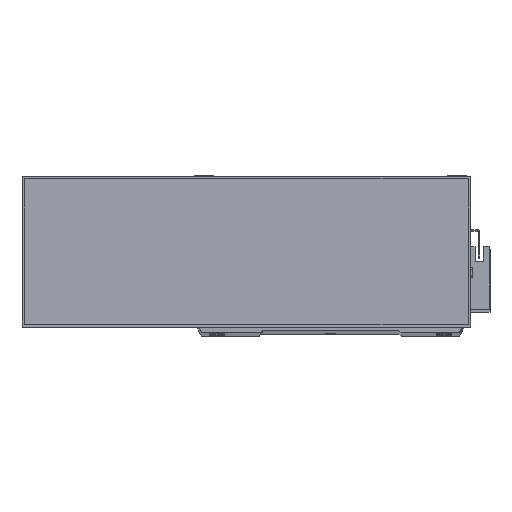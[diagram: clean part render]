
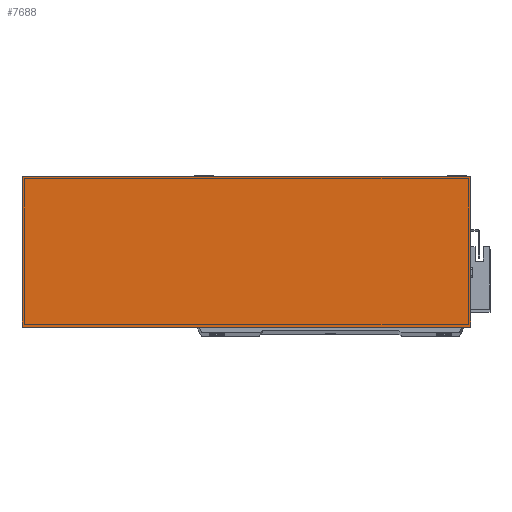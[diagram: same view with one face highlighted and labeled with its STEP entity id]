
A CAD part, top view. The second image highlights one B-rep face of the part: STEP entity #7688.
In plain terms, the highlighted planar face has unit normal (0, 0, 1).
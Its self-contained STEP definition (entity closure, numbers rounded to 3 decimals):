
#278 = CARTESIAN_POINT ( 'NONE',  ( 0., 0., 50. ) ) ;
#381 = PLANE ( 'NONE',  #18443 ) ;
#734 = LINE ( 'NONE', #22312, #12256 ) ;
#782 = EDGE_CURVE ( 'NONE', #9601, #14171, #734, .T. ) ;
#1493 = VERTEX_POINT ( 'NONE', #27083 ) ;
#1651 = VECTOR ( 'NONE', #12295, 1000. ) ;
#2460 = EDGE_CURVE ( 'NONE', #14171, #3275, #27192, .T. ) ;
#2691 = DIRECTION ( 'NONE',  ( -1., 0., 0. ) ) ;
#2939 = ORIENTED_EDGE ( 'NONE', *, *, #782, .T. ) ;
#3275 = VERTEX_POINT ( 'NONE', #19309 ) ;
#3875 = DIRECTION ( 'NONE',  ( 1., 0., 0. ) ) ;
#4500 = ORIENTED_EDGE ( 'NONE', *, *, #10279, .T. ) ;
#5371 = CARTESIAN_POINT ( 'NONE',  ( 277., 0., 50. ) ) ;
#7688 = ADVANCED_FACE ( 'NONE', ( #22600 ), #381, .F. ) ;
#9601 = VERTEX_POINT ( 'NONE', #26740 ) ;
#10279 = EDGE_CURVE ( 'NONE', #1493, #9601, #28897, .T. ) ;
#11330 = VECTOR ( 'NONE', #29676, 1000. ) ;
#11357 = EDGE_CURVE ( 'NONE', #3275, #1493, #26096, .T. ) ;
#12256 = VECTOR ( 'NONE', #28050, 1000. ) ;
#12295 = DIRECTION ( 'NONE',  ( 0., 1., 0. ) ) ;
#12921 = ORIENTED_EDGE ( 'NONE', *, *, #2460, .T. ) ;
#13633 = CARTESIAN_POINT ( 'NONE',  ( 0., 93., 50. ) ) ;
#14171 = VERTEX_POINT ( 'NONE', #14984 ) ;
#14179 = ORIENTED_EDGE ( 'NONE', *, *, #11357, .T. ) ;
#14984 = CARTESIAN_POINT ( 'NONE',  ( 0., 0., 50. ) ) ;
#16477 = DIRECTION ( 'NONE',  ( 0., 0., -1. ) ) ;
#18443 = AXIS2_PLACEMENT_3D ( 'NONE', #278, #16477, #2691 ) ;
#19309 = CARTESIAN_POINT ( 'NONE',  ( 277., 0., 50. ) ) ;
#19963 = CARTESIAN_POINT ( 'NONE',  ( 0., 0., 50. ) ) ;
#21135 = VECTOR ( 'NONE', #3875, 1000. ) ;
#22312 = CARTESIAN_POINT ( 'NONE',  ( 0., 0., 50. ) ) ;
#22600 = FACE_OUTER_BOUND ( 'NONE', #26364, .T. ) ;
#26096 = LINE ( 'NONE', #5371, #1651 ) ;
#26364 = EDGE_LOOP ( 'NONE', ( #2939, #12921, #14179, #4500 ) ) ;
#26740 = CARTESIAN_POINT ( 'NONE',  ( 0., 93., 50. ) ) ;
#27083 = CARTESIAN_POINT ( 'NONE',  ( 277., 93., 50. ) ) ;
#27192 = LINE ( 'NONE', #19963, #21135 ) ;
#28050 = DIRECTION ( 'NONE',  ( 0., -1., 0. ) ) ;
#28897 = LINE ( 'NONE', #13633, #11330 ) ;
#29676 = DIRECTION ( 'NONE',  ( -1., 0., 0. ) ) ;
